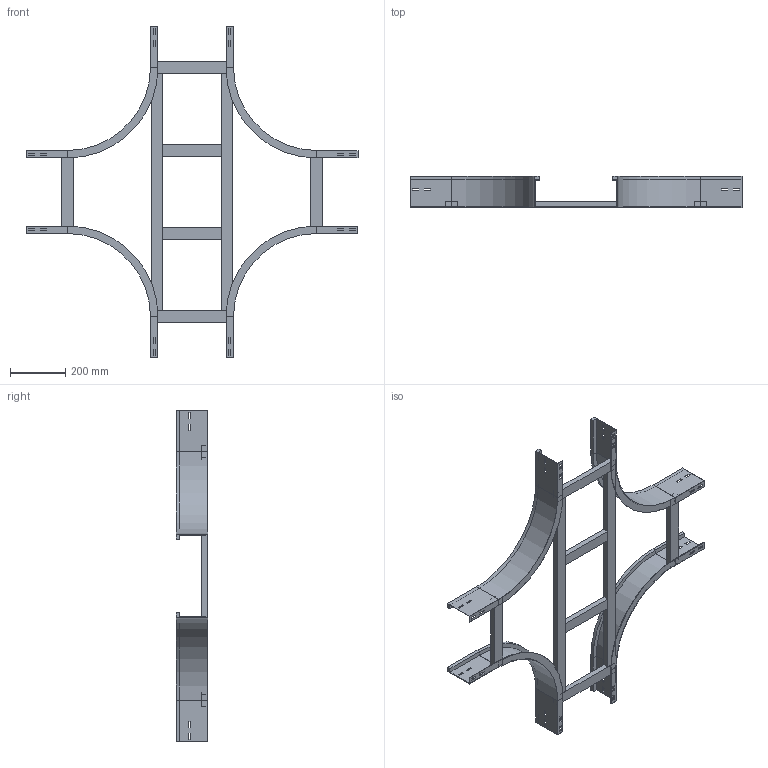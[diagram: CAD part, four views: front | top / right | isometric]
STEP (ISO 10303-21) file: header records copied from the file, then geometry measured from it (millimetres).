
FILE_DESCRIPTION (( 'STEP AP214' ), '1' );
FILE_NAME ('A2_17B3J300.step', '2025-02-21T15:56:39', ( '' ), ( '' ), 'SwSTEP 2.0', 'SolidWorks 2023', '' );
FILE_SCHEMA (( 'AUTOMOTIVE_DESIGN' ));
Length unit declared in the file: millimetre
Products named in the file (5): A2_TRAVERSINO_LONG._R300+300; A2_LONGH.INTERNO 90°_H112.5_R300; A2_17B3J300; TRAVERSINO_300; TRAVERSINO_INTERMEDIO_R300+300
Assembly tree (12 placements, depth 2):
  A2_17B3J300
    A2_LONGH.INTERNO 90°_H112.5_R300  x4
    TRAVERSINO_300  x4
    A2_TRAVERSINO_LONG._R300+300  x2
    TRAVERSINO_INTERMEDIO_R300+300  x2
Bounding box: 1200 x 112.5 x 1200 mm (x, y, z)
Volume: 4148581 mm3; surface area: 1382791.5 mm2
Topology: 12 solids, 12 shells, 280 faces, 704 edges, 448 vertices
Faces by surface type: plane 264, cylinder 16
Entity records: 2442 total; most frequent: CARTESIAN_POINT 399, DIRECTION 378, ORIENTED_EDGE 376, EDGE_CURVE 188, LINE 180, VECTOR 180, VERTEX_POINT 120, AXIS2_PLACEMENT_3D 99
